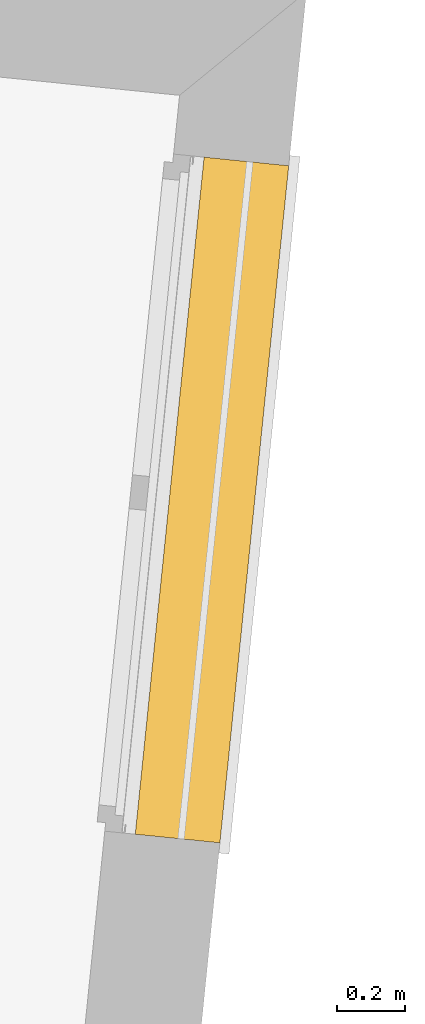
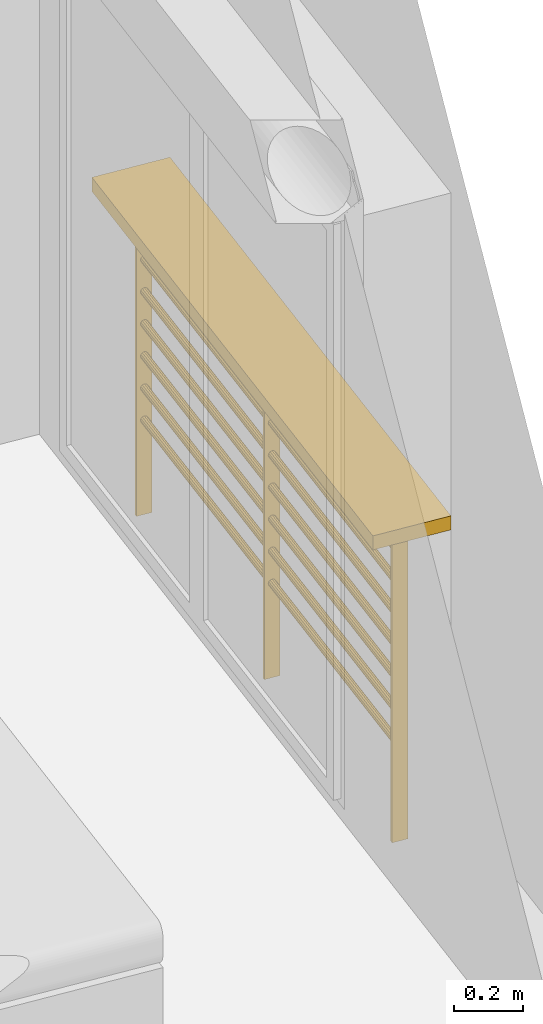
# One storey, part 100 of 164: 1 railing.
"""IFC2X3 building model written with IfcOpenShell, lengths in millimetres."""

from ifc_helpers import new_model, entity, si_unit, converted_unit, derived_unit, money_unit, direction, frame, origin_with_axes, place, context, subcontext, project, spatial, faceted_brep, source, transform, mapped, type_object, element, save


model = new_model("IFC2X3")

# Units and contexts
model_context = context("Model", 3, precision=0.01, world=origin_with_axes(), true_north=direction((0.0, 1.0)))
body_context = subcontext(model_context, "Body", "Model", "MODEL_VIEW")
ifc_project = project(units=[si_unit("LENGTHUNIT", "METRE", prefix="MILLI"), si_unit("AREAUNIT", "SQUARE_METRE"), si_unit("VOLUMEUNIT", "CUBIC_METRE"), converted_unit("PLANEANGLEUNIT", "DEGREE", entity("IfcPlaneAngleMeasure", 0.0174532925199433), si_unit("PLANEANGLEUNIT", "RADIAN"), dimensions=[0, 0, 0, 0, 0, 0, 0]), money_unit("USD"), converted_unit("TIMEUNIT", "Year", entity("IfcTimeMeasure", 31557600.0), si_unit("TIMEUNIT", "SECOND"), dimensions=[0, 0, 1, 0, 0, 0, 0]), si_unit("MASSUNIT", "GRAM", prefix="KILO"), si_unit("THERMODYNAMICTEMPERATUREUNIT", "DEGREE_CELSIUS"), si_unit("LUMINOUSINTENSITYUNIT", "LUMEN"), si_unit("ENERGYUNIT", "JOULE", prefix="MEGA"), derived_unit("THERMALCONDUCTANCEUNIT", [(si_unit("POWERUNIT", "WATT"), 1), (si_unit("LENGTHUNIT", "METRE"), -1), (si_unit("THERMODYNAMICTEMPERATUREUNIT", "KELVIN"), -1)]), derived_unit("SPECIFICHEATCAPACITYUNIT", [(si_unit("ENERGYUNIT", "JOULE"), 1), (si_unit("MASSUNIT", "GRAM", prefix="KILO"), -1), (si_unit("THERMODYNAMICTEMPERATUREUNIT", "KELVIN"), -1)]), derived_unit("MASSDENSITYUNIT", [(si_unit("MASSUNIT", "GRAM", prefix="KILO"), 1), (si_unit("VOLUMEUNIT", "CUBIC_METRE"), -1)])], contexts=[model_context])

# Site, building, storey
site_placement = place(None, origin_with_axes())
site = spatial("IfcSite", under=ifc_project, at=site_placement, Name="Site", CompositionType="ELEMENT")
building_placement = place(site_placement, origin_with_axes())
building = spatial("IfcBuilding", under=site, at=building_placement, Name="Bâtiment", CompositionType="ELEMENT")
storey_placement = place(building_placement, frame((0.0, 0.0, 5750.0), z_axis=(0.0, 0.0, 1.0), x_axis=(1.0, 0.0, 0.0)))
storey = spatial("IfcBuildingStorey", under=building, at=storey_placement, Name="Etage1", CompositionType="ELEMENT", Elevation=5750.0)

# Railing
railing_type = type_object("IfcRailingType", Name="Cadre avec câble 01 20", PredefinedType="NOTDEFINED")
shared_shape = source(origin_with_axes(), body_context, "Body", "Brep", [
    faceted_brep([(0.0, 125.0, 950.0), (0.0, -125.0, 950.0), (0.0, -125.0, 1000.0), (0.0, 125.0, 1000.0), (1999.999999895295, 125.0, 950.0), (1999.999999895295, -125.0, 950.0), (1999.999999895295, -125.0, 1000.0), (1999.999999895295, 125.0, 1000.0)], [[[0, 1, 2, 3]], [[0, 4, 5, 1]], [[1, 5, 6, 2]], [[3, 2, 6, 7]], [[4, 0, 3, 7]], [[5, 4, 7, 6]]]),
    faceted_brep([(84.99999999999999, -25.0, -176.0), (95.0, -25.0, -176.0), (95.0, -25.0, 950.0), (84.99999999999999, -25.0, 950.0), (84.99999999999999, 25.0, -176.0), (95.0, 25.0, -176.0), (95.0, 25.0, 950.0), (84.99999999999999, 25.0, 950.0)], [[[0, 1, 2, 3]], [[0, 4, 5, 1]], [[1, 5, 6, 2]], [[3, 2, 6, 7]], [[4, 0, 3, 7]], [[5, 4, 7, 6]]]),
    faceted_brep([(994.9999999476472, -25.0, -176.0), (1004.999999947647, -25.0, -176.0), (1004.999999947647, -25.0, 950.0), (994.9999999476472, -25.0, 950.0), (994.9999999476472, 25.0, -176.0), (1004.999999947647, 25.0, -176.0), (1004.999999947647, 25.0, 950.0), (994.9999999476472, 25.0, 950.0)], [[[0, 1, 2, 3]], [[0, 4, 5, 1]], [[1, 5, 6, 2]], [[3, 2, 6, 7]], [[4, 0, 3, 7]], [[5, 4, 7, 6]]]),
    faceted_brep([(1904.999999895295, -25.0, -176.0), (1914.999999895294, -25.0, -176.0), (1914.999999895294, -25.0, 950.0), (1904.999999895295, -25.0, 950.0), (1904.999999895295, 25.0, -176.0), (1914.999999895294, 25.0, -176.0), (1914.999999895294, 25.0, 950.0), (1904.999999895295, 25.0, 950.0)], [[[0, 1, 2, 3]], [[0, 4, 5, 1]], [[1, 5, 6, 2]], [[3, 2, 6, 7]], [[4, 0, 3, 7]], [[5, 4, 7, 6]]]),
    faceted_brep([(994.9999999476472, 10.82531754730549, 168.7500000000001), (994.9999999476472, 12.5, 162.5000000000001), (95.0, 12.5, 162.5), (95.0, 10.82531754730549, 168.75), (994.9999999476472, 10.82531754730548, 156.2500000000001), (994.9999999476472, 6.250000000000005, 173.3253175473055), (994.9999999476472, 0.0, 175.0000000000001), (994.9999999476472, -6.249999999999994, 173.3253175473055), (994.9999999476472, -10.82531754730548, 168.7500000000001), (994.9999999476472, -12.5, 162.5000000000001), (994.9999999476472, -10.82531754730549, 156.2500000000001), (994.9999999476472, -6.250000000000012, 151.6746824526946), (994.9999999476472, 0.0, 150.0000000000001), (994.9999999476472, 6.249999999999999, 151.6746824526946), (95.0, 10.82531754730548, 156.25), (95.0, 6.249999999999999, 151.6746824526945), (95.0, 0.0, 150.0), (95.0, -6.250000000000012, 151.6746824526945), (95.0, -10.82531754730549, 156.25), (95.0, -12.5, 162.5), (95.0, -10.82531754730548, 168.75), (95.0, -6.249999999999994, 173.3253175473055), (95.0, 0.0, 175.0), (95.0, 6.250000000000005, 173.3253175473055)], [[[0, 1, 2, 3]], [[4, 1, 0, 5, 6, 7, 8, 9, 10, 11, 12, 13]], [[1, 4, 14, 2]], [[3, 2, 14, 15, 16, 17, 18, 19, 20, 21, 22, 23]], [[5, 0, 3, 23]], [[6, 5, 23, 22]], [[7, 6, 22, 21]], [[8, 7, 21, 20]], [[9, 8, 20, 19]], [[10, 9, 19, 18]], [[11, 10, 18, 17]], [[12, 11, 17, 16]], [[13, 12, 16, 15]], [[4, 13, 15, 14]]]),
    faceted_brep([(1004.999999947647, 10.82531754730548, 156.2500000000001), (1004.999999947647, 12.5, 162.5000000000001), (1904.999999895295, 12.5, 162.5000000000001), (1904.999999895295, 10.82531754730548, 156.2500000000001), (1004.999999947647, 10.82531754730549, 168.7500000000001), (1004.999999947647, 6.249999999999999, 151.6746824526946), (1004.999999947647, 0.0, 150.0000000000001), (1004.999999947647, -6.250000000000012, 151.6746824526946), (1004.999999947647, -10.82531754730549, 156.2500000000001), (1004.999999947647, -12.5, 162.5000000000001), (1004.999999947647, -10.82531754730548, 168.7500000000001), (1004.999999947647, -6.249999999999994, 173.3253175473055), (1004.999999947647, 0.0, 175.0000000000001), (1004.999999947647, 6.250000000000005, 173.3253175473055), (1904.999999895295, 10.82531754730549, 168.7500000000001), (1904.999999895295, 6.250000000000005, 173.3253175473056), (1904.999999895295, 0.0, 175.0000000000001), (1904.999999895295, -6.249999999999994, 173.3253175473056), (1904.999999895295, -10.82531754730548, 168.7500000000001), (1904.999999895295, -12.5, 162.5000000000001), (1904.999999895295, -10.82531754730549, 156.2500000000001), (1904.999999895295, -6.250000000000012, 151.6746824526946), (1904.999999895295, 0.0, 150.0000000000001), (1904.999999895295, 6.249999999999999, 151.6746824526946)], [[[0, 1, 2, 3]], [[4, 1, 0, 5, 6, 7, 8, 9, 10, 11, 12, 13]], [[1, 4, 14, 2]], [[3, 2, 14, 15, 16, 17, 18, 19, 20, 21, 22, 23]], [[5, 0, 3, 23]], [[6, 5, 23, 22]], [[7, 6, 22, 21]], [[8, 7, 21, 20]], [[9, 8, 20, 19]], [[10, 9, 19, 18]], [[11, 10, 18, 17]], [[12, 11, 17, 16]], [[13, 12, 16, 15]], [[4, 13, 15, 14]]]),
    faceted_brep([(994.9999999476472, 10.82531754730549, 283.0357142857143), (994.9999999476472, 12.5, 276.7857142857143), (95.0, 12.5, 276.7857142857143), (95.0, 10.82531754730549, 283.0357142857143), (994.9999999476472, 10.82531754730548, 270.5357142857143), (994.9999999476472, 6.250000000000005, 287.6110318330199), (994.9999999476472, 0.0, 289.2857142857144), (994.9999999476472, -6.249999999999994, 287.6110318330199), (994.9999999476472, -10.82531754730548, 283.0357142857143), (994.9999999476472, -12.5, 276.7857142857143), (994.9999999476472, -10.82531754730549, 270.5357142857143), (994.9999999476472, -6.250000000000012, 265.9603967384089), (994.9999999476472, 0.0, 264.2857142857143), (994.9999999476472, 6.249999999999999, 265.9603967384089), (95.0, 10.82531754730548, 270.5357142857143), (95.0, 6.249999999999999, 265.9603967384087), (95.0, 0.0, 264.2857142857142), (95.0, -6.250000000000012, 265.9603967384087), (95.0, -10.82531754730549, 270.5357142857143), (95.0, -12.5, 276.7857142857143), (95.0, -10.82531754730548, 283.0357142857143), (95.0, -6.249999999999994, 287.6110318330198), (95.0, 0.0, 289.2857142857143), (95.0, 6.250000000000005, 287.6110318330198)], [[[0, 1, 2, 3]], [[4, 1, 0, 5, 6, 7, 8, 9, 10, 11, 12, 13]], [[1, 4, 14, 2]], [[3, 2, 14, 15, 16, 17, 18, 19, 20, 21, 22, 23]], [[5, 0, 3, 23]], [[6, 5, 23, 22]], [[7, 6, 22, 21]], [[8, 7, 21, 20]], [[9, 8, 20, 19]], [[10, 9, 19, 18]], [[11, 10, 18, 17]], [[12, 11, 17, 16]], [[13, 12, 16, 15]], [[4, 13, 15, 14]]]),
    faceted_brep([(1004.999999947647, 10.82531754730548, 270.5357142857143), (1004.999999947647, 12.5, 276.7857142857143), (1904.999999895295, 12.5, 276.7857142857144), (1904.999999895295, 10.82531754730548, 270.5357142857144), (1004.999999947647, 10.82531754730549, 283.0357142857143), (1004.999999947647, 6.249999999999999, 265.9603967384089), (1004.999999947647, 0.0, 264.2857142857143), (1004.999999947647, -6.250000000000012, 265.9603967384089), (1004.999999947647, -10.82531754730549, 270.5357142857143), (1004.999999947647, -12.5, 276.7857142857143), (1004.999999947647, -10.82531754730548, 283.0357142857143), (1004.999999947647, -6.249999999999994, 287.6110318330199), (1004.999999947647, 0.0, 289.2857142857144), (1004.999999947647, 6.250000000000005, 287.6110318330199), (1904.999999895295, 10.82531754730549, 283.0357142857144), (1904.999999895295, 6.250000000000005, 287.6110318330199), (1904.999999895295, 0.0, 289.2857142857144), (1904.999999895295, -6.249999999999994, 287.6110318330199), (1904.999999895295, -10.82531754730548, 283.0357142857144), (1904.999999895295, -12.5, 276.7857142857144), (1904.999999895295, -10.82531754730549, 270.5357142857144), (1904.999999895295, -6.250000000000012, 265.9603967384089), (1904.999999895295, 0.0, 264.2857142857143), (1904.999999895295, 6.249999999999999, 265.9603967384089)], [[[0, 1, 2, 3]], [[4, 1, 0, 5, 6, 7, 8, 9, 10, 11, 12, 13]], [[1, 4, 14, 2]], [[3, 2, 14, 15, 16, 17, 18, 19, 20, 21, 22, 23]], [[5, 0, 3, 23]], [[6, 5, 23, 22]], [[7, 6, 22, 21]], [[8, 7, 21, 20]], [[9, 8, 20, 19]], [[10, 9, 19, 18]], [[11, 10, 18, 17]], [[12, 11, 17, 16]], [[13, 12, 16, 15]], [[4, 13, 15, 14]]]),
    faceted_brep([(994.9999999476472, 10.82531754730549, 397.3214285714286), (994.9999999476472, 12.5, 391.0714285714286), (95.0, 12.5, 391.0714285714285), (95.0, 10.82531754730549, 397.3214285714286), (994.9999999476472, 10.82531754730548, 384.8214285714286), (994.9999999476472, 6.250000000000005, 401.896746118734), (994.9999999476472, 0.0, 403.5714285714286), (994.9999999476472, -6.249999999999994, 401.896746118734), (994.9999999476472, -10.82531754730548, 397.3214285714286), (994.9999999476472, -12.5, 391.0714285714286), (994.9999999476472, -10.82531754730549, 384.8214285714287), (994.9999999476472, -6.250000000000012, 380.2461110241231), (994.9999999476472, 0.0, 378.5714285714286), (994.9999999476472, 6.249999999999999, 380.2461110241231), (95.0, 10.82531754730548, 384.8214285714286), (95.0, 6.249999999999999, 380.2461110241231), (95.0, 0.0, 378.5714285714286), (95.0, -6.250000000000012, 380.2461110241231), (95.0, -10.82531754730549, 384.8214285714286), (95.0, -12.5, 391.0714285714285), (95.0, -10.82531754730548, 397.3214285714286), (95.0, -6.249999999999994, 401.896746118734), (95.0, 0.0, 403.5714285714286), (95.0, 6.250000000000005, 401.896746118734)], [[[0, 1, 2, 3]], [[4, 1, 0, 5, 6, 7, 8, 9, 10, 11, 12, 13]], [[1, 4, 14, 2]], [[3, 2, 14, 15, 16, 17, 18, 19, 20, 21, 22, 23]], [[5, 0, 3, 23]], [[6, 5, 23, 22]], [[7, 6, 22, 21]], [[8, 7, 21, 20]], [[9, 8, 20, 19]], [[10, 9, 19, 18]], [[11, 10, 18, 17]], [[12, 11, 17, 16]], [[13, 12, 16, 15]], [[4, 13, 15, 14]]]),
    faceted_brep([(1004.999999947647, 10.82531754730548, 384.8214285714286), (1004.999999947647, 12.5, 391.0714285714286), (1904.999999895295, 12.5, 391.0714285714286), (1904.999999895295, 10.82531754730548, 384.8214285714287), (1004.999999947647, 10.82531754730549, 397.3214285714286), (1004.999999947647, 6.249999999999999, 380.2461110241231), (1004.999999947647, 0.0, 378.5714285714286), (1004.999999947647, -6.250000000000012, 380.2461110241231), (1004.999999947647, -10.82531754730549, 384.8214285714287), (1004.999999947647, -12.5, 391.0714285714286), (1004.999999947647, -10.82531754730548, 397.3214285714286), (1004.999999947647, -6.249999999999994, 401.896746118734), (1004.999999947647, 0.0, 403.5714285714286), (1004.999999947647, 6.250000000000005, 401.896746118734), (1904.999999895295, 10.82531754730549, 397.3214285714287), (1904.999999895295, 6.250000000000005, 401.8967461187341), (1904.999999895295, 0.0, 403.5714285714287), (1904.999999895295, -6.249999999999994, 401.8967461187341), (1904.999999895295, -10.82531754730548, 397.3214285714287), (1904.999999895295, -12.5, 391.0714285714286), (1904.999999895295, -10.82531754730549, 384.8214285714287), (1904.999999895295, -6.250000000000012, 380.2461110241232), (1904.999999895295, 0.0, 378.5714285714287), (1904.999999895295, 6.249999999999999, 380.2461110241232)], [[[0, 1, 2, 3]], [[4, 1, 0, 5, 6, 7, 8, 9, 10, 11, 12, 13]], [[1, 4, 14, 2]], [[3, 2, 14, 15, 16, 17, 18, 19, 20, 21, 22, 23]], [[5, 0, 3, 23]], [[6, 5, 23, 22]], [[7, 6, 22, 21]], [[8, 7, 21, 20]], [[9, 8, 20, 19]], [[10, 9, 19, 18]], [[11, 10, 18, 17]], [[12, 11, 17, 16]], [[13, 12, 16, 15]], [[4, 13, 15, 14]]]),
    faceted_brep([(994.9999999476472, 10.82531754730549, 511.6071428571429), (994.9999999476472, 12.5, 505.3571428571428), (95.0, 12.5, 505.3571428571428), (95.0, 10.82531754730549, 511.6071428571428), (994.9999999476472, 10.82531754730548, 499.1071428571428), (994.9999999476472, 6.250000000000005, 516.1824604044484), (994.9999999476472, 0.0, 517.8571428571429), (994.9999999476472, -6.249999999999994, 516.1824604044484), (994.9999999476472, -10.82531754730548, 511.6071428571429), (994.9999999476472, -12.5, 505.3571428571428), (994.9999999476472, -10.82531754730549, 499.1071428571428), (994.9999999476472, -6.250000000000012, 494.5318253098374), (994.9999999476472, 0.0, 492.8571428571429), (994.9999999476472, 6.249999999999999, 494.5318253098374), (95.0, 10.82531754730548, 499.1071428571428), (95.0, 6.249999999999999, 494.5318253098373), (95.0, 0.0, 492.8571428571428), (95.0, -6.250000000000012, 494.5318253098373), (95.0, -10.82531754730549, 499.1071428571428), (95.0, -12.5, 505.3571428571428), (95.0, -10.82531754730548, 511.6071428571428), (95.0, -6.249999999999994, 516.1824604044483), (95.0, 0.0, 517.8571428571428), (95.0, 6.250000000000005, 516.1824604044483)], [[[0, 1, 2, 3]], [[4, 1, 0, 5, 6, 7, 8, 9, 10, 11, 12, 13]], [[1, 4, 14, 2]], [[3, 2, 14, 15, 16, 17, 18, 19, 20, 21, 22, 23]], [[5, 0, 3, 23]], [[6, 5, 23, 22]], [[7, 6, 22, 21]], [[8, 7, 21, 20]], [[9, 8, 20, 19]], [[10, 9, 19, 18]], [[11, 10, 18, 17]], [[12, 11, 17, 16]], [[13, 12, 16, 15]], [[4, 13, 15, 14]]]),
    faceted_brep([(1004.999999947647, 10.82531754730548, 499.1071428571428), (1004.999999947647, 12.5, 505.3571428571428), (1904.999999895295, 12.5, 505.3571428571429), (1904.999999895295, 10.82531754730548, 499.1071428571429), (1004.999999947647, 10.82531754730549, 511.6071428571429), (1004.999999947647, 6.249999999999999, 494.5318253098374), (1004.999999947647, 0.0, 492.8571428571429), (1004.999999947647, -6.250000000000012, 494.5318253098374), (1004.999999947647, -10.82531754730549, 499.1071428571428), (1004.999999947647, -12.5, 505.3571428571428), (1004.999999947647, -10.82531754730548, 511.6071428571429), (1004.999999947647, -6.249999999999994, 516.1824604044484), (1004.999999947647, 0.0, 517.8571428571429), (1004.999999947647, 6.250000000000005, 516.1824604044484), (1904.999999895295, 10.82531754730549, 511.6071428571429), (1904.999999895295, 6.250000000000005, 516.1824604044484), (1904.999999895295, 0.0, 517.8571428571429), (1904.999999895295, -6.249999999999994, 516.1824604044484), (1904.999999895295, -10.82531754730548, 511.6071428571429), (1904.999999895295, -12.5, 505.3571428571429), (1904.999999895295, -10.82531754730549, 499.1071428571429), (1904.999999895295, -6.250000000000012, 494.5318253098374), (1904.999999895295, 0.0, 492.8571428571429), (1904.999999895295, 6.249999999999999, 494.5318253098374)], [[[0, 1, 2, 3]], [[4, 1, 0, 5, 6, 7, 8, 9, 10, 11, 12, 13]], [[1, 4, 14, 2]], [[3, 2, 14, 15, 16, 17, 18, 19, 20, 21, 22, 23]], [[5, 0, 3, 23]], [[6, 5, 23, 22]], [[7, 6, 22, 21]], [[8, 7, 21, 20]], [[9, 8, 20, 19]], [[10, 9, 19, 18]], [[11, 10, 18, 17]], [[12, 11, 17, 16]], [[13, 12, 16, 15]], [[4, 13, 15, 14]]]),
    faceted_brep([(994.9999999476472, 10.82531754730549, 625.8928571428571), (994.9999999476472, 12.5, 619.6428571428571), (95.0, 12.5, 619.642857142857), (95.0, 10.82531754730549, 625.892857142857), (994.9999999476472, 10.82531754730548, 613.3928571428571), (994.9999999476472, 6.250000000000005, 630.4681746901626), (994.9999999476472, 0.0, 632.1428571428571), (994.9999999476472, -6.249999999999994, 630.4681746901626), (994.9999999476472, -10.82531754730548, 625.8928571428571), (994.9999999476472, -12.5, 619.6428571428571), (994.9999999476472, -10.82531754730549, 613.3928571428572), (994.9999999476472, -6.250000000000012, 608.8175395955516), (994.9999999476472, 0.0, 607.1428571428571), (994.9999999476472, 6.249999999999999, 608.8175395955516), (95.0, 10.82531754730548, 613.3928571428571), (95.0, 6.249999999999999, 608.8175395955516), (95.0, 0.0, 607.1428571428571), (95.0, -6.250000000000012, 608.8175395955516), (95.0, -10.82531754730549, 613.3928571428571), (95.0, -12.5, 619.642857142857), (95.0, -10.82531754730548, 625.892857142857), (95.0, -6.249999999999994, 630.4681746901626), (95.0, 0.0, 632.1428571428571), (95.0, 6.250000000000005, 630.4681746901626)], [[[0, 1, 2, 3]], [[4, 1, 0, 5, 6, 7, 8, 9, 10, 11, 12, 13]], [[1, 4, 14, 2]], [[3, 2, 14, 15, 16, 17, 18, 19, 20, 21, 22, 23]], [[5, 0, 3, 23]], [[6, 5, 23, 22]], [[7, 6, 22, 21]], [[8, 7, 21, 20]], [[9, 8, 20, 19]], [[10, 9, 19, 18]], [[11, 10, 18, 17]], [[12, 11, 17, 16]], [[13, 12, 16, 15]], [[4, 13, 15, 14]]]),
    faceted_brep([(1004.999999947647, 10.82531754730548, 613.3928571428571), (1004.999999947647, 12.5, 619.6428571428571), (1904.999999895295, 12.5, 619.6428571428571), (1904.999999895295, 10.82531754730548, 613.3928571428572), (1004.999999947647, 10.82531754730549, 625.8928571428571), (1004.999999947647, 6.249999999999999, 608.8175395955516), (1004.999999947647, 0.0, 607.1428571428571), (1004.999999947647, -6.250000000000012, 608.8175395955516), (1004.999999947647, -10.82531754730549, 613.3928571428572), (1004.999999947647, -12.5, 619.6428571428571), (1004.999999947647, -10.82531754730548, 625.8928571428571), (1004.999999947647, -6.249999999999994, 630.4681746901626), (1004.999999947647, 0.0, 632.1428571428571), (1004.999999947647, 6.250000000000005, 630.4681746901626), (1904.999999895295, 10.82531754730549, 625.8928571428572), (1904.999999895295, 6.250000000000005, 630.4681746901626), (1904.999999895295, 0.0, 632.1428571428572), (1904.999999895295, -6.249999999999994, 630.4681746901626), (1904.999999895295, -10.82531754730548, 625.8928571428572), (1904.999999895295, -12.5, 619.6428571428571), (1904.999999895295, -10.82531754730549, 613.3928571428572), (1904.999999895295, -6.250000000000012, 608.8175395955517), (1904.999999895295, 0.0, 607.1428571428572), (1904.999999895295, 6.249999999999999, 608.8175395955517)], [[[0, 1, 2, 3]], [[4, 1, 0, 5, 6, 7, 8, 9, 10, 11, 12, 13]], [[1, 4, 14, 2]], [[3, 2, 14, 15, 16, 17, 18, 19, 20, 21, 22, 23]], [[5, 0, 3, 23]], [[6, 5, 23, 22]], [[7, 6, 22, 21]], [[8, 7, 21, 20]], [[9, 8, 20, 19]], [[10, 9, 19, 18]], [[11, 10, 18, 17]], [[12, 11, 17, 16]], [[13, 12, 16, 15]], [[4, 13, 15, 14]]]),
    faceted_brep([(994.9999999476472, 10.82531754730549, 740.1785714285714), (994.9999999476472, 12.5, 733.9285714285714), (95.0, 12.5, 733.9285714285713), (95.0, 10.82531754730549, 740.1785714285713), (994.9999999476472, 10.82531754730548, 727.6785714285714), (994.9999999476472, 6.250000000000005, 744.7538889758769), (994.9999999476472, 0.0, 746.4285714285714), (994.9999999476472, -6.249999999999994, 744.7538889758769), (994.9999999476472, -10.82531754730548, 740.1785714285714), (994.9999999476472, -12.5, 733.9285714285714), (994.9999999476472, -10.82531754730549, 727.6785714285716), (994.9999999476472, -6.250000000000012, 723.1032538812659), (994.9999999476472, 0.0, 721.4285714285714), (994.9999999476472, 6.249999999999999, 723.1032538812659), (95.0, 10.82531754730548, 727.6785714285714), (95.0, 6.249999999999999, 723.1032538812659), (95.0, 0.0, 721.4285714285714), (95.0, -6.250000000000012, 723.1032538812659), (95.0, -10.82531754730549, 727.6785714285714), (95.0, -12.5, 733.9285714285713), (95.0, -10.82531754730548, 740.1785714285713), (95.0, -6.249999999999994, 744.7538889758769), (95.0, 0.0, 746.4285714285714), (95.0, 6.250000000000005, 744.7538889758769)], [[[0, 1, 2, 3]], [[4, 1, 0, 5, 6, 7, 8, 9, 10, 11, 12, 13]], [[1, 4, 14, 2]], [[3, 2, 14, 15, 16, 17, 18, 19, 20, 21, 22, 23]], [[5, 0, 3, 23]], [[6, 5, 23, 22]], [[7, 6, 22, 21]], [[8, 7, 21, 20]], [[9, 8, 20, 19]], [[10, 9, 19, 18]], [[11, 10, 18, 17]], [[12, 11, 17, 16]], [[13, 12, 16, 15]], [[4, 13, 15, 14]]]),
    faceted_brep([(1004.999999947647, 10.82531754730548, 727.6785714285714), (1004.999999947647, 12.5, 733.9285714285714), (1904.999999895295, 12.5, 733.9285714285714), (1904.999999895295, 10.82531754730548, 727.6785714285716), (1004.999999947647, 10.82531754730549, 740.1785714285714), (1004.999999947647, 6.249999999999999, 723.1032538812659), (1004.999999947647, 0.0, 721.4285714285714), (1004.999999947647, -6.250000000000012, 723.1032538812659), (1004.999999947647, -10.82531754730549, 727.6785714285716), (1004.999999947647, -12.5, 733.9285714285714), (1004.999999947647, -10.82531754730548, 740.1785714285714), (1004.999999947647, -6.249999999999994, 744.7538889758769), (1004.999999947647, 0.0, 746.4285714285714), (1004.999999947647, 6.250000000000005, 744.7538889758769), (1904.999999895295, 10.82531754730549, 740.1785714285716), (1904.999999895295, 6.250000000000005, 744.753888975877), (1904.999999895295, 0.0, 746.4285714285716), (1904.999999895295, -6.249999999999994, 744.753888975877), (1904.999999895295, -10.82531754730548, 740.1785714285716), (1904.999999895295, -12.5, 733.9285714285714), (1904.999999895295, -10.82531754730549, 727.6785714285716), (1904.999999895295, -6.250000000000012, 723.103253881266), (1904.999999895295, 0.0, 721.4285714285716), (1904.999999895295, 6.249999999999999, 723.103253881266)], [[[0, 1, 2, 3]], [[4, 1, 0, 5, 6, 7, 8, 9, 10, 11, 12, 13]], [[1, 4, 14, 2]], [[3, 2, 14, 15, 16, 17, 18, 19, 20, 21, 22, 23]], [[5, 0, 3, 23]], [[6, 5, 23, 22]], [[7, 6, 22, 21]], [[8, 7, 21, 20]], [[9, 8, 20, 19]], [[10, 9, 19, 18]], [[11, 10, 18, 17]], [[12, 11, 17, 16]], [[13, 12, 16, 15]], [[4, 13, 15, 14]]]),
    faceted_brep([(994.9999999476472, 10.82531754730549, 854.4642857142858), (994.9999999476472, 12.5, 848.2142857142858), (95.0, 12.5, 848.2142857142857), (95.0, 10.82531754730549, 854.4642857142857), (994.9999999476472, 10.82531754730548, 841.9642857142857), (994.9999999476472, 6.250000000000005, 859.0396032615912), (994.9999999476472, 0.0, 860.7142857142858), (994.9999999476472, -6.249999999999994, 859.0396032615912), (994.9999999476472, -10.82531754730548, 854.4642857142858), (994.9999999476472, -12.5, 848.2142857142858), (994.9999999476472, -10.82531754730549, 841.9642857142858), (994.9999999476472, -6.250000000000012, 837.3889681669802), (994.9999999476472, 0.0, 835.7142857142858), (994.9999999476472, 6.249999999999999, 837.3889681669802), (95.0, 10.82531754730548, 841.9642857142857), (95.0, 6.249999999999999, 837.3889681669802), (95.0, 0.0, 835.7142857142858), (95.0, -6.250000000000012, 837.3889681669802), (95.0, -10.82531754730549, 841.9642857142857), (95.0, -12.5, 848.2142857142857), (95.0, -10.82531754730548, 854.4642857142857), (95.0, -6.249999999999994, 859.0396032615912), (95.0, 0.0, 860.7142857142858), (95.0, 6.250000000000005, 859.0396032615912)], [[[0, 1, 2, 3]], [[4, 1, 0, 5, 6, 7, 8, 9, 10, 11, 12, 13]], [[1, 4, 14, 2]], [[3, 2, 14, 15, 16, 17, 18, 19, 20, 21, 22, 23]], [[5, 0, 3, 23]], [[6, 5, 23, 22]], [[7, 6, 22, 21]], [[8, 7, 21, 20]], [[9, 8, 20, 19]], [[10, 9, 19, 18]], [[11, 10, 18, 17]], [[12, 11, 17, 16]], [[13, 12, 16, 15]], [[4, 13, 15, 14]]]),
    faceted_brep([(1004.999999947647, 10.82531754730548, 841.9642857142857), (1004.999999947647, 12.5, 848.2142857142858), (1904.999999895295, 12.5, 848.2142857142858), (1904.999999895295, 10.82531754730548, 841.9642857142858), (1004.999999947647, 10.82531754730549, 854.4642857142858), (1004.999999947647, 6.249999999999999, 837.3889681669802), (1004.999999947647, 0.0, 835.7142857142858), (1004.999999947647, -6.250000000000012, 837.3889681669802), (1004.999999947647, -10.82531754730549, 841.9642857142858), (1004.999999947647, -12.5, 848.2142857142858), (1004.999999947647, -10.82531754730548, 854.4642857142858), (1004.999999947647, -6.249999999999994, 859.0396032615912), (1004.999999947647, 0.0, 860.7142857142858), (1004.999999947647, 6.250000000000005, 859.0396032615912), (1904.999999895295, 10.82531754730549, 854.4642857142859), (1904.999999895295, 6.250000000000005, 859.0396032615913), (1904.999999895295, 0.0, 860.7142857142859), (1904.999999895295, -6.249999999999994, 859.0396032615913), (1904.999999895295, -10.82531754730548, 854.4642857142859), (1904.999999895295, -12.5, 848.2142857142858), (1904.999999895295, -10.82531754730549, 841.9642857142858), (1904.999999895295, -6.250000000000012, 837.3889681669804), (1904.999999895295, 0.0, 835.7142857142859), (1904.999999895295, 6.249999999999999, 837.3889681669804)], [[[0, 1, 2, 3]], [[4, 1, 0, 5, 6, 7, 8, 9, 10, 11, 12, 13]], [[1, 4, 14, 2]], [[3, 2, 14, 15, 16, 17, 18, 19, 20, 21, 22, 23]], [[5, 0, 3, 23]], [[6, 5, 23, 22]], [[7, 6, 22, 21]], [[8, 7, 21, 20]], [[9, 8, 20, 19]], [[10, 9, 19, 18]], [[11, 10, 18, 17]], [[12, 11, 17, 16]], [[13, 12, 16, 15]], [[4, 13, 15, 14]]]),
])
railing_placement = place(storey_placement, frame((2239804.470911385, -608724.0707222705, 0.0), z_axis=(0.0, 0.0, 1.0), x_axis=(0.1011032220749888, 0.9948759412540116, 0.0)))
element("IfcRailing", 1, at=railing_placement, inside=storey, type_object=railing_type, Name="Obj.-002", PredefinedType="NOTDEFINED", context=body_context, shape_type="MappedRepresentation", body=[
    mapped(shared_shape, transform((0.0, 0.0, 0.0))),
])

save(model, "model.ifc")
